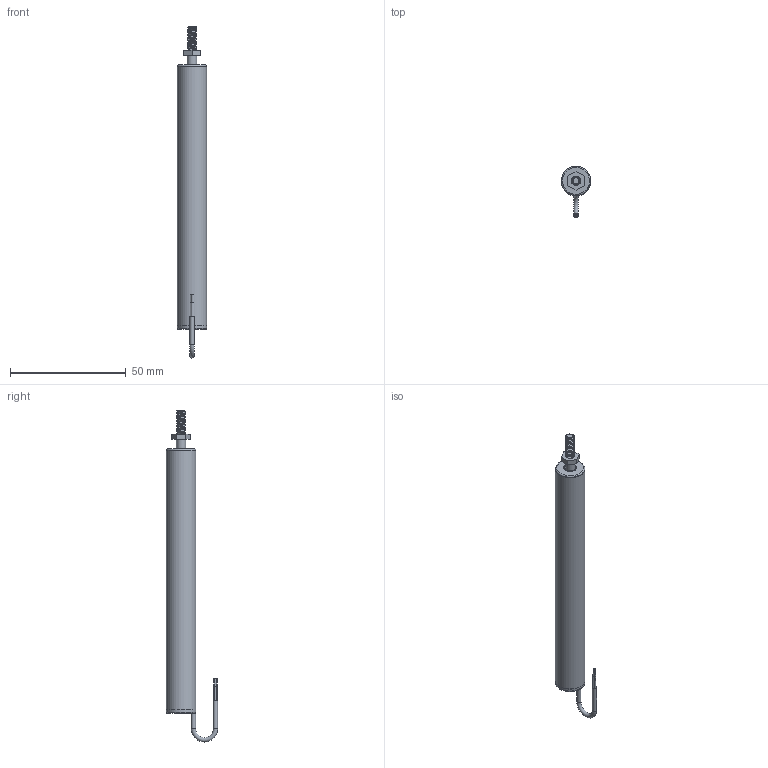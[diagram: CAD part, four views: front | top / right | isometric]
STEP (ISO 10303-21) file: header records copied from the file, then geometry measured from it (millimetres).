
FILE_DESCRIPTION(/* description */ (''),/* implementation_level */ '2;1');
FILE_NAME(/* name */ 'ILPS-13Z-100-A-00-YY-S Assembly (wrapped).iam.stp',/* time_stamp */ '2023-05-05T16:04:27-04:00',/* author */ ('TSC_Grant'),/* organization */ (''),/* preprocessor_version */ 'ST-DEVELOPER v19.2',/* originating_system */ 'Autodesk Inventor 2024',/* authorisation */ '');
FILE_SCHEMA (('AUTOMOTIVE_DESIGN { 1 0 10303 214 3 1 1 }'));
Length unit declared in the file: inch
Products named in the file (5): 3020-0017-XX Assembly_SW; 3020-0017-XX Sensor Tube_SW; 3020-0017-XX Shaft_SW; 3020-0017-XX Wire_SW; BS 4183 - M4
Assembly tree (4 placements, depth 2):
  3020-0017-XX Assembly_SW
    3020-0017-XX Sensor Tube_SW
    3020-0017-XX Shaft_SW
    3020-0017-XX Wire_SW
    BS 4183 - M4
Bounding box: 12.7 x 22.14 x 143.58 mm (x, y, z)
Volume: 3209 mm3; surface area: 15257.3 mm2
Topology: 7 solids, 7 shells, 64 faces, 122 edges, 80 vertices
Faces by surface type: plane 32, cylinder 22, cone 4, torus 3, bspline 3
Full cylindrical faces by diameter (mm): 0.508 x4, 0.635 x4, 1.857 x2, 3.242 x1, 3.988 x1, 4.826 x1, 5.588 x3, 12.446 x1, 12.7 x3
Entity records: 3534 total; most frequent: CARTESIAN_POINT 1890, DIRECTION 304, ORIENTED_EDGE 244, AXIS2_PLACEMENT_3D 127, EDGE_CURVE 122, EDGE_LOOP 82, VERTEX_POINT 80, FACE_OUTER_BOUND 64
